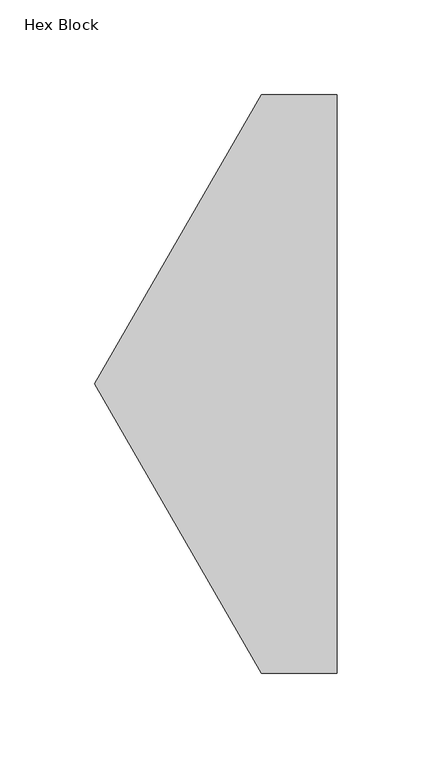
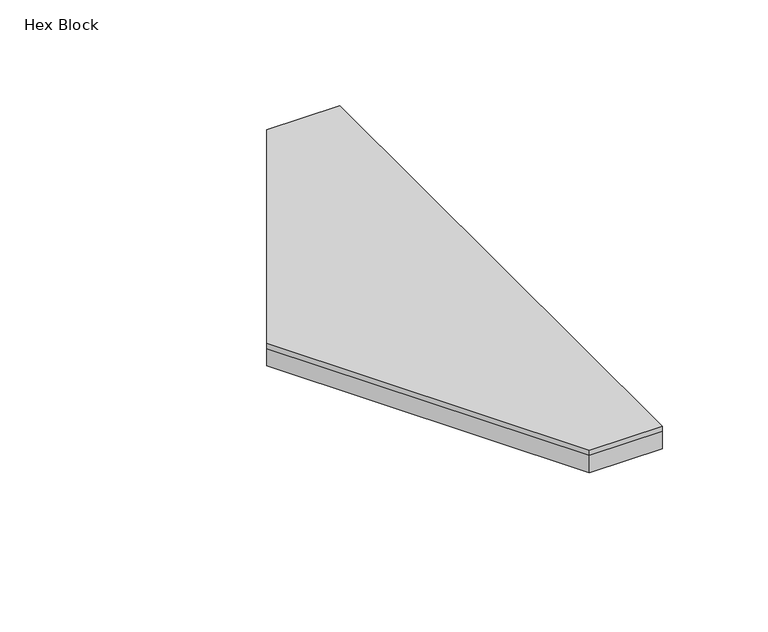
"""IFC4 building model written with IfcOpenShell, lengths in millimetres: proxy geometry, FilzFelt_Hex_Block : Hex Block."""

from ifc_helpers import new_model, si_unit, frame, origin, origin_with_axes, place, context, project, spatial, polyline, outline, extrude, source, transform, mapped, element, save


def hex_block_761645ae(model_context):
    return source(origin(), model_context, "Body", "SweptSolid", [
        extrude(outline(polyline([(-175.976362, 0.0), (-87.988181, 152.4), (-48.2369948, 152.4), (-48.2369948, -152.4), (-87.988181, -152.4), (-175.976362, 0.0)])), frame((0.0, 0.0, 10.0210937), z_axis=(0.0, 0.0, 1.0), x_axis=(1.0, 0.0, 0.0)), (0.0, 0.0, 1.0), 2.9765625),
        extrude(outline(polyline([(-87.988181, -152.4), (-175.976362, 0.0), (-87.988181, 152.4), (-48.2369948, 152.4), (-48.2369948, -152.4), (-87.988181, -152.4)])), origin_with_axes(), (0.0, 0.0, 1.0), 10.0210938),
    ])


if __name__ == "__main__":
    model = new_model("IFC4")
    model_context = context("Model", 3, world=origin())
    ifc_project = project(units=[si_unit("LENGTHUNIT", "METRE", prefix="MILLI")], contexts=[model_context])
    site = spatial("IfcSite", under=ifc_project)
    building = spatial("IfcBuilding", under=site)
    placement = place(None, origin())
    hex_block_shape = hex_block_761645ae(model_context)
    element("IfcBuildingElementProxy", 1, Name="FilzFelt_Hex_Block : Hex Block", ObjectType="FilzFelt_Hex_Block : Hex Block", at=placement, inside=building, context=model_context, shape_type="MappedRepresentation", body=[
        mapped(hex_block_shape, transform((0.0, 0.0, 0.0), x_axis=(1.0, 0.0, 0.0), y_axis=(0.0, 1.0, 0.0), z_axis=(0.0, 0.0, 1.0))),
    ])
    save(model, "model.ifc")
